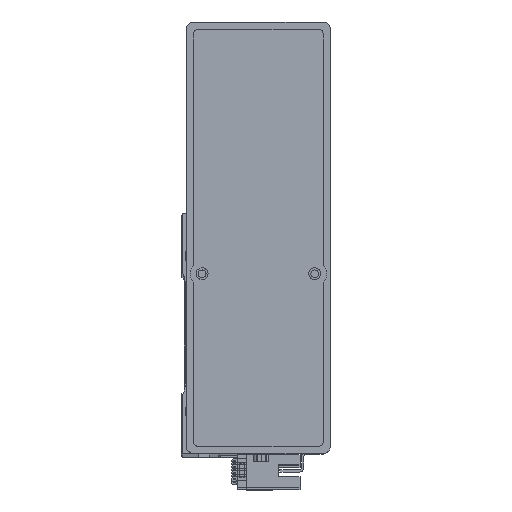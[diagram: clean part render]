
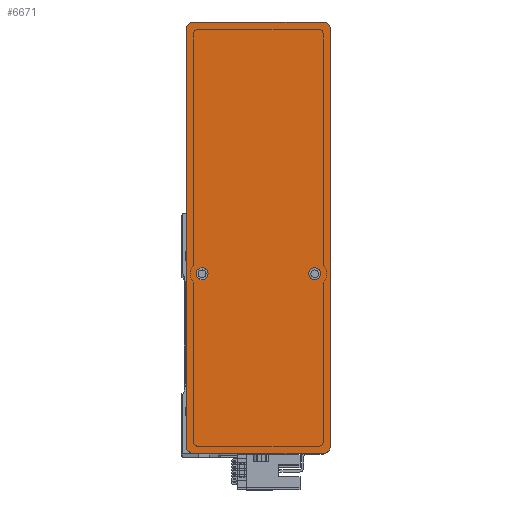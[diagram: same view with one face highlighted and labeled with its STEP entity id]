
A CAD part, top view. The second image highlights one B-rep face of the part: STEP entity #6671.
In plain terms, the highlighted planar face has unit normal (0, 0, 1) as drawn and (0, 0, -1) by its records, which use the part's own axes.
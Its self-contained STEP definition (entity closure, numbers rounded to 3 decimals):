
#21 = AXIS2_PLACEMENT_3D ( 'NONE', #35177, #13437, #38828 ) ;
#327 = EDGE_CURVE ( 'NONE', #20997, #20467, #41053, .T. ) ;
#1050 = DIRECTION ( 'NONE',  ( 1., 0., 0. ) ) ;
#2175 = DIRECTION ( 'NONE',  ( 0., 0., -1. ) ) ;
#2840 = ORIENTED_EDGE ( 'NONE', *, *, #13114, .T. ) ;
#3154 = AXIS2_PLACEMENT_3D ( 'NONE', #28492, #6710, #32104 ) ;
#3159 = DIRECTION ( 'NONE',  ( 0., 0., -1. ) ) ;
#3472 = CARTESIAN_POINT ( 'NONE',  ( -90., 27., 0. ) ) ;
#3968 = CARTESIAN_POINT ( 'NONE',  ( -12.5, 23.5, 0. ) ) ;
#4001 = EDGE_CURVE ( 'NONE', #46223, #32929, #7059, .T. ) ;
#4359 = CARTESIAN_POINT ( 'NONE',  ( 90., 27., 0. ) ) ;
#4649 = CARTESIAN_POINT ( 'NONE',  ( -15., 23.5, 0. ) ) ;
#5286 = CARTESIAN_POINT ( 'NONE',  ( 0., 0., 0. ) ) ;
#5450 = DIRECTION ( 'NONE',  ( 1., 0., 0. ) ) ;
#5900 = EDGE_CURVE ( 'NONE', #35945, #25684, #19907, .T. ) ;
#5997 = ORIENTED_EDGE ( 'NONE', *, *, #327, .F. ) ;
#6018 = CARTESIAN_POINT ( 'NONE',  ( -87., 30., 0. ) ) ;
#6210 = CARTESIAN_POINT ( 'NONE',  ( 90., -30., 0. ) ) ;
#6564 = AXIS2_PLACEMENT_3D ( 'NONE', #5286, #27243, #5450 ) ;
#6671 = ADVANCED_FACE ( 'NONE', ( #44116, #25979, #34463 ), #37991, .F. ) ;
#6710 = DIRECTION ( 'NONE',  ( 0., 0., -1. ) ) ;
#7059 = LINE ( 'NONE', #43382, #32630 ) ;
#8312 = DIRECTION ( 'NONE',  ( -1., 0., 0. ) ) ;
#8558 = EDGE_LOOP ( 'NONE', ( #46556, #5997 ) ) ;
#9268 = CARTESIAN_POINT ( 'NONE',  ( -87., 27., 0. ) ) ;
#9725 = CARTESIAN_POINT ( 'NONE',  ( 90., -30., 0. ) ) ;
#9858 = CARTESIAN_POINT ( 'NONE',  ( 87., -30., 0. ) ) ;
#10202 = DIRECTION ( 'NONE',  ( 0., -1., 0. ) ) ;
#10283 = VERTEX_POINT ( 'NONE', #4359 ) ;
#10904 = AXIS2_PLACEMENT_3D ( 'NONE', #23957, #2175, #27617 ) ;
#11297 = LINE ( 'NONE', #6210, #29522 ) ;
#12727 = VERTEX_POINT ( 'NONE', #3472 ) ;
#12881 = DIRECTION ( 'NONE',  ( 1., 0., 0. ) ) ;
#13114 = EDGE_CURVE ( 'NONE', #30068, #34237, #15793, .T. ) ;
#13437 = DIRECTION ( 'NONE',  ( 0., 0., -1. ) ) ;
#13498 = DIRECTION ( 'NONE',  ( 1., 0., 0. ) ) ;
#13702 = AXIS2_PLACEMENT_3D ( 'NONE', #9268, #34657, #12881 ) ;
#14356 = EDGE_CURVE ( 'NONE', #35945, #10283, #37642, .T. ) ;
#15232 = CARTESIAN_POINT ( 'NONE',  ( -17.5, 23.5, 0. ) ) ;
#15439 = CARTESIAN_POINT ( 'NONE',  ( -15., -23.5, 0. ) ) ;
#15793 = CIRCLE ( 'NONE', #10904, 3. ) ;
#15813 = ORIENTED_EDGE ( 'NONE', *, *, #25110, .F. ) ;
#17678 = EDGE_CURVE ( 'NONE', #46223, #10283, #34946, .T. ) ;
#17988 = AXIS2_PLACEMENT_3D ( 'NONE', #4649, #30090, #8312 ) ;
#18172 = VERTEX_POINT ( 'NONE', #3968 ) ;
#18771 = CIRCLE ( 'NONE', #13702, 3. ) ;
#19123 = DIRECTION ( 'NONE',  ( -1., 0., 0. ) ) ;
#19836 = CARTESIAN_POINT ( 'NONE',  ( -12.5, -23.5, 0. ) ) ;
#19907 = CIRCLE ( 'NONE', #29067, 3. ) ;
#20467 = VERTEX_POINT ( 'NONE', #44770 ) ;
#20997 = VERTEX_POINT ( 'NONE', #19836 ) ;
#21005 = CARTESIAN_POINT ( 'NONE',  ( 87., 30., 0. ) ) ;
#22764 = EDGE_CURVE ( 'NONE', #20467, #20997, #35328, .T. ) ;
#22794 = DIRECTION ( 'NONE',  ( 0., 0., -1. ) ) ;
#23798 = EDGE_CURVE ( 'NONE', #12727, #34237, #25026, .T. ) ;
#23957 = CARTESIAN_POINT ( 'NONE',  ( -87., -27., 0. ) ) ;
#24969 = CARTESIAN_POINT ( 'NONE',  ( 87., -27., 0. ) ) ;
#25026 = LINE ( 'NONE', #35558, #43148 ) ;
#25110 = EDGE_CURVE ( 'NONE', #18172, #40584, #28845, .T. ) ;
#25684 = VERTEX_POINT ( 'NONE', #9858 ) ;
#25979 = FACE_BOUND ( 'NONE', #8558, .T. ) ;
#27243 = DIRECTION ( 'NONE',  ( 0., 0., 1. ) ) ;
#27617 = DIRECTION ( 'NONE',  ( 1., 0., 0. ) ) ;
#27963 = ORIENTED_EDGE ( 'NONE', *, *, #14356, .F. ) ;
#28042 = VECTOR ( 'NONE', #42663, 1000. ) ;
#28492 = CARTESIAN_POINT ( 'NONE',  ( -15., 23.5, 0. ) ) ;
#28613 = DIRECTION ( 'NONE',  ( 1., 0., 0. ) ) ;
#28656 = EDGE_LOOP ( 'NONE', ( #27963, #39325, #38601, #2840, #34375, #36177, #37913, #35296 ) ) ;
#28845 = CIRCLE ( 'NONE', #3154, 2.5 ) ;
#29067 = AXIS2_PLACEMENT_3D ( 'NONE', #24969, #3159, #28613 ) ;
#29522 = VECTOR ( 'NONE', #13498, 1000. ) ;
#29580 = EDGE_CURVE ( 'NONE', #40584, #18172, #32612, .T. ) ;
#30068 = VERTEX_POINT ( 'NONE', #37051 ) ;
#30090 = DIRECTION ( 'NONE',  ( 0., 0., -1. ) ) ;
#30755 = ORIENTED_EDGE ( 'NONE', *, *, #29580, .F. ) ;
#32104 = DIRECTION ( 'NONE',  ( -1., 0., 0. ) ) ;
#32612 = CIRCLE ( 'NONE', #17988, 2.5 ) ;
#32630 = VECTOR ( 'NONE', #47050, 1000. ) ;
#32929 = VERTEX_POINT ( 'NONE', #6018 ) ;
#34237 = VERTEX_POINT ( 'NONE', #41383 ) ;
#34375 = ORIENTED_EDGE ( 'NONE', *, *, #23798, .F. ) ;
#34463 = FACE_OUTER_BOUND ( 'NONE', #28656, .T. ) ;
#34657 = DIRECTION ( 'NONE',  ( 0., 0., -1. ) ) ;
#34946 = CIRCLE ( 'NONE', #37842, 3. ) ;
#35177 = CARTESIAN_POINT ( 'NONE',  ( -15., -23.5, 0. ) ) ;
#35296 = ORIENTED_EDGE ( 'NONE', *, *, #17678, .T. ) ;
#35328 = CIRCLE ( 'NONE', #21, 2.5 ) ;
#35558 = CARTESIAN_POINT ( 'NONE',  ( -90., -30., 0. ) ) ;
#35945 = VERTEX_POINT ( 'NONE', #39576 ) ;
#36177 = ORIENTED_EDGE ( 'NONE', *, *, #43012, .T. ) ;
#37051 = CARTESIAN_POINT ( 'NONE',  ( -87., -30., 0. ) ) ;
#37642 = LINE ( 'NONE', #9725, #28042 ) ;
#37842 = AXIS2_PLACEMENT_3D ( 'NONE', #44499, #22794, #1050 ) ;
#37913 = ORIENTED_EDGE ( 'NONE', *, *, #4001, .F. ) ;
#37991 = PLANE ( 'NONE',  #6564 ) ;
#38601 = ORIENTED_EDGE ( 'NONE', *, *, #40310, .F. ) ;
#38828 = DIRECTION ( 'NONE',  ( -1., 0., 0. ) ) ;
#39325 = ORIENTED_EDGE ( 'NONE', *, *, #5900, .T. ) ;
#39576 = CARTESIAN_POINT ( 'NONE',  ( 90., -27., 0. ) ) ;
#40310 = EDGE_CURVE ( 'NONE', #30068, #25684, #11297, .T. ) ;
#40584 = VERTEX_POINT ( 'NONE', #15232 ) ;
#40789 = DIRECTION ( 'NONE',  ( 0., 0., -1. ) ) ;
#41053 = CIRCLE ( 'NONE', #46801, 2.5 ) ;
#41383 = CARTESIAN_POINT ( 'NONE',  ( -90., -27., 0. ) ) ;
#42663 = DIRECTION ( 'NONE',  ( 0., 1., 0. ) ) ;
#43012 = EDGE_CURVE ( 'NONE', #12727, #32929, #18771, .T. ) ;
#43148 = VECTOR ( 'NONE', #10202, 1000. ) ;
#43334 = EDGE_LOOP ( 'NONE', ( #30755, #15813 ) ) ;
#43382 = CARTESIAN_POINT ( 'NONE',  ( 90., 30., 0. ) ) ;
#44116 = FACE_BOUND ( 'NONE', #43334, .T. ) ;
#44499 = CARTESIAN_POINT ( 'NONE',  ( 87., 27., 0. ) ) ;
#44770 = CARTESIAN_POINT ( 'NONE',  ( -17.5, -23.5, 0. ) ) ;
#46223 = VERTEX_POINT ( 'NONE', #21005 ) ;
#46556 = ORIENTED_EDGE ( 'NONE', *, *, #22764, .F. ) ;
#46801 = AXIS2_PLACEMENT_3D ( 'NONE', #15439, #40789, #19123 ) ;
#47050 = DIRECTION ( 'NONE',  ( -1., 0., 0. ) ) ;
